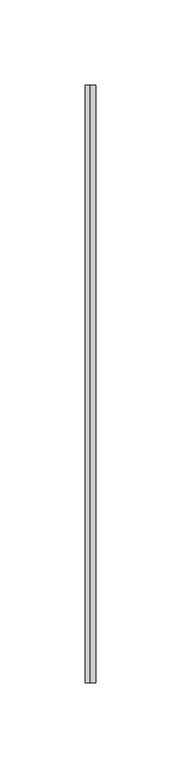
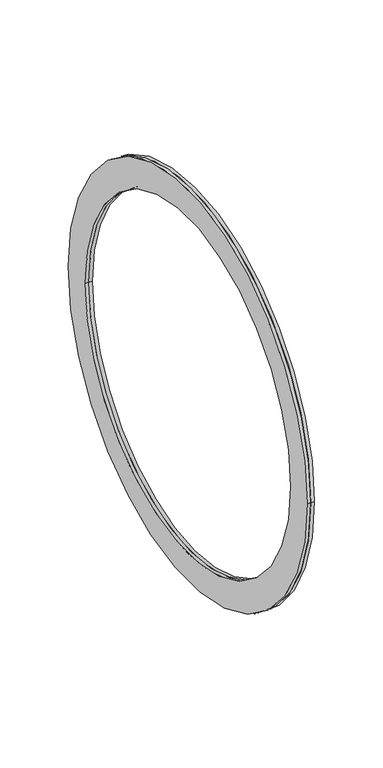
"""IFC4 building model written with IfcOpenShell, lengths in millimetres: duct fitting geometry, BL_ФланецВоздуховдов-Двойной_Круглый : BL_ФланецВоздуховдов-Двойной_Круглый."""

import ifcopenshell
import ifcopenshell.guid

model = None  # the IFC model being written
_history = None  # IfcOwnerHistory: only IFC2X3 demands one
_inside = {}  # id of a spatial element -> (the spatial element, [elements in it])
_under = {}  # id of a project, library or spatial element -> (it, [spatial elements below it])
_declared = {}  # id of a project -> (the project, [libraries it declares])
_typed = {}  # id of a type object -> (the type object, [elements of that type])
_made_of = {}  # id of a material, layer set ... -> (it, [elements and type objects made of it])


def new_model(schema):
    """Start an empty IFC model of exactly this schema.

    Asked for "IFC4X3", IfcOpenShell would pick the latest addendum, in which some entities
    have other attributes; the version numbers below select the first issue.
    IFC2X3 requires an IfcOwnerHistory on every rooted entity: one is made here for all.
    """
    global model, _history
    if schema == "IFC4X3":
        model = ifcopenshell.file(schema_version=(4, 3, 0, 0))
    else:
        model = ifcopenshell.file(schema=schema)
    _inside.clear()
    _under.clear()
    _declared.clear()
    _typed.clear()
    _made_of.clear()
    _history = None
    if model.schema == "IFC2X3":
        org = make("IfcOrganization", Name="unknown")
        user = make(
            "IfcPersonAndOrganization",
            ThePerson=make("IfcPerson", FamilyName="unknown"),
            TheOrganization=org,
        )
        app = make(
            "IfcApplication",
            ApplicationDeveloper=org,
            Version="unknown",
            ApplicationFullName="unknown",
            ApplicationIdentifier="unknown",
        )
        _history = make(
            "IfcOwnerHistory",
            OwningUser=user,
            OwningApplication=app,
            ChangeAction="ADDED",
            CreationDate=0,
        )
    return model


def make(cls, **values):
    """One entity of the class cls with the attributes given. An attribute that is None is left unset."""
    return model.create_entity(
        cls, **{name: value for name, value in values.items() if value is not None}
    )


def rooted(cls, **values):
    """An entity with a GlobalId (a new one), such as an element, a storey or a relation."""
    return make(cls, GlobalId=ifcopenshell.guid.new(), OwnerHistory=_history, **values)


def si_unit(unit_type, name, prefix=None):
    """IfcSIUnit, for example si_unit("LENGTHUNIT", "METRE", prefix="MILLI")."""
    return make("IfcSIUnit", UnitType=unit_type, Prefix=prefix, Name=name)


def assignment(units):
    """IfcUnitAssignment: the units of a project."""
    return None if units is None else make("IfcUnitAssignment", Units=units)


def point(xyz):
    """IfcCartesianPoint."""
    return None if xyz is None else make("IfcCartesianPoint", Coordinates=xyz)


def direction(xyz):
    """IfcDirection."""
    return None if xyz is None else make("IfcDirection", DirectionRatios=xyz)


def frame(location, z_axis=None, x_axis=None):
    """IfcAxis2Placement3D, a coordinate frame: its origin and axes. An axis left out is left unset."""
    return make(
        "IfcAxis2Placement3D",
        Location=point(location),
        Axis=direction(z_axis),
        RefDirection=direction(x_axis),
    )


def frame_2d(location, x_axis=None):
    """IfcAxis2Placement2D, a coordinate frame in the plane: its origin and x axis."""
    return make(
        "IfcAxis2Placement2D", Location=point(location), RefDirection=direction(x_axis)
    )


def origin():
    """The frame at (0, 0, 0) with its axes left unset."""
    return frame((0.0, 0.0, 0.0))


def place(relative_to, where):
    """IfcLocalPlacement: puts the frame where relative to a parent placement (None: the world)."""
    return make(
        "IfcLocalPlacement", PlacementRelTo=relative_to, RelativePlacement=where
    )


def context(
    kind, dimensions, precision=None, world=None, true_north=None, identifier=None
):
    """IfcGeometricRepresentationContext, for example the 3D "Model" context."""
    return make(
        "IfcGeometricRepresentationContext",
        ContextIdentifier=identifier,
        ContextType=kind,
        CoordinateSpaceDimension=dimensions,
        Precision=precision,
        WorldCoordinateSystem=world,
        TrueNorth=true_north,
    )


def project(units=None, contexts=None):
    """IfcProject with its units and contexts."""
    return rooted(
        "IfcProject",
        Name="project",
        RepresentationContexts=contexts,
        UnitsInContext=assignment(units),
    )


def spatial(cls, under=None, at=None, **own):
    """A site, building, storey or space (cls), placed at a placement, below another one or the project."""
    s = rooted(cls, ObjectPlacement=at, **own)
    if under is not None:
        _under.setdefault(under.id(), (under, []))[1].append(s)
    return s


def circle_curve(where, radius):
    """IfcCircle in the frame where."""
    return make("IfcCircle", Position=where, Radius=radius)


def trimmed(basis, trim1, trim2, sense, master):
    """IfcTrimmedCurve: the piece of a basis curve between two trims."""
    return make(
        "IfcTrimmedCurve",
        BasisCurve=basis,
        Trim1=trim1,
        Trim2=trim2,
        SenseAgreement=sense,
        MasterRepresentation=master,
    )


def segment(curve, same_sense, transition):
    """IfcCompositeCurveSegment."""
    return make(
        "IfcCompositeCurveSegment",
        Transition=transition,
        SameSense=same_sense,
        ParentCurve=curve,
    )


def composite_curve(segments, self_intersect=None):
    """IfcCompositeCurve: segments joined end to end."""
    return make("IfcCompositeCurve", Segments=segments, SelfIntersect=self_intersect)


def outline(outer, holes=None, kind="AREA"):
    """IfcArbitraryClosedProfileDef: a profile drawn as a closed curve; with holes, ...WithVoids."""
    if holes is None:
        return make("IfcArbitraryClosedProfileDef", ProfileType=kind, OuterCurve=outer)
    return make(
        "IfcArbitraryProfileDefWithVoids",
        ProfileType=kind,
        OuterCurve=outer,
        InnerCurves=holes,
    )


def extrude(swept, where, along, depth):
    """IfcExtrudedAreaSolid: the profile swept, set in the frame where, extruded along a direction by depth."""
    return make(
        "IfcExtrudedAreaSolid",
        SweptArea=swept,
        Position=where,
        ExtrudedDirection=direction(along),
        Depth=depth,
    )


def shape(context_of_items, identifier, shape_type, items):
    """IfcShapeRepresentation: the items that make up one representation, for example the "Body"."""
    return make(
        "IfcShapeRepresentation",
        ContextOfItems=context_of_items,
        RepresentationIdentifier=identifier,
        RepresentationType=shape_type,
        Items=items,
    )


def source(mapping_origin, context_of_items, identifier, shape_type, items):
    """IfcRepresentationMap: a shape defined once, which mapped items show again and again."""
    return make(
        "IfcRepresentationMap",
        MappingOrigin=mapping_origin,
        MappedRepresentation=shape(context_of_items, identifier, shape_type, items),
    )


def transform(
    local_origin,
    x_axis=None,
    y_axis=None,
    z_axis=None,
    scale=None,
    scale2=None,
    scale3=None,
    uniform=True,
):
    """IfcCartesianTransformationOperator3D, or its non-uniform kind. x_axis, y_axis, z_axis: its Axis1, 2, 3."""
    if uniform:
        return make(
            "IfcCartesianTransformationOperator3D",
            Axis1=direction(x_axis),
            Axis2=direction(y_axis),
            LocalOrigin=point(local_origin),
            Scale=scale,
            Axis3=direction(z_axis),
        )
    return make(
        "IfcCartesianTransformationOperator3DnonUniform",
        Axis1=direction(x_axis),
        Axis2=direction(y_axis),
        LocalOrigin=point(local_origin),
        Scale=scale,
        Axis3=direction(z_axis),
        Scale2=scale2,
        Scale3=scale3,
    )


def mapped(mapping_source, mapping_target):
    """IfcMappedItem: shows the shape of a source again, moved by a transform."""
    return make(
        "IfcMappedItem", MappingSource=mapping_source, MappingTarget=mapping_target
    )


def made_of(thing, what):
    """Note that an element or type object is made of a material, layer set ...; save() writes the relation."""
    if what is not None:
        _made_of.setdefault(what.id(), (what, []))[1].append(thing)
    return thing


def element(
    cls,
    number,
    at=None,
    inside=None,
    cuts=None,
    type_object=None,
    material=None,
    context=None,
    identifier="Body",
    shape_type=None,
    held_by="IfcProductDefinitionShape",
    body=None,
    shapes=None,
    **own,
):
    """One element of the class cls, such as IfcWall. Its Tag is "e" and its number.

    at: its placement. inside: the storey or other place that contains it. cuts: it is an
    opening in that element (IfcRelVoidsElement). A single representation is given by context,
    identifier, shape_type and body (its items); several are given by shapes. held_by: the class
    of the entity that holds the representations. save() writes the other relations.
    """
    e = rooted(cls, Tag="e%d" % number, ObjectPlacement=at, **own)
    if body is not None:
        shapes = [shape(context, identifier, shape_type, body)]
    if shapes is not None:
        e.Representation = make(held_by, Representations=shapes)
    if inside is not None:
        _inside.setdefault(inside.id(), (inside, []))[1].append(e)
    if cuts is not None:
        rooted(
            "IfcRelVoidsElement", RelatingBuildingElement=cuts, RelatedOpeningElement=e
        )
    if type_object is not None:
        _typed.setdefault(type_object.id(), (type_object, []))[1].append(e)
    return made_of(e, material)


def aggregate(whole, parts):
    """IfcRelAggregates: a whole, such as a stair, and the parts it consists of."""
    return rooted("IfcRelAggregates", RelatingObject=whole, RelatedObjects=parts)


def save(model, path):
    """Write the relations noted so far, then the file.

    IfcRelAggregates (storeys below a building ...), IfcRelContainedInSpatialStructure (elements
    in a storey), IfcRelDefinesByType, IfcRelAssociatesMaterial and IfcRelDeclares: one each for
    every whole, place, type object, material and project.
    """
    for whole, parts in _under.values():
        aggregate(whole, parts)
    for where, things in _inside.values():
        rooted(
            "IfcRelContainedInSpatialStructure",
            RelatedElements=things,
            RelatingStructure=where,
        )
    for kind, things in _typed.values():
        rooted("IfcRelDefinesByType", RelatedObjects=things, RelatingType=kind)
    for what, things in _made_of.values():
        rooted("IfcRelAssociatesMaterial", RelatedObjects=things, RelatingMaterial=what)
    for by, libraries in _declared.values():
        rooted("IfcRelDeclares", RelatingContext=by, RelatedDefinitions=libraries)
    model.write(path)


def duct_fitting_ef46aa1c(model_context):
    return source(origin(), model_context, "Body", "SweptSolid", [
        extrude(outline(composite_curve([segment(trimmed(circle_curve(frame_2d((-45.6742229, 0.0)), 175.0), [point((-220.6742229, 0.0))], [point((129.3257771, 0.0))], False, "CARTESIAN"), True, "CONTINUOUS"), segment(trimmed(circle_curve(frame_2d((-45.6742229, 0.0)), 175.0), [point((129.3257771, 0.0))], [point((-220.6742229, 0.0))], False, "CARTESIAN"), True, "CONTINUOUS")], self_intersect=False), holes=[composite_curve([segment(trimmed(circle_curve(frame_2d((-45.6742229, 0.0)), 150.0), [point((-195.6742229, 0.0))], [point((104.3257771, 0.0))], True, "CARTESIAN"), True, "CONTINUOUS"), segment(trimmed(circle_curve(frame_2d((-45.6742229, 0.0)), 150.0), [point((104.3257771, 0.0))], [point((-195.6742229, 0.0))], True, "CARTESIAN"), True, "CONTINUOUS")], self_intersect=False)]), frame((0.0, 0.0, 0.0), z_axis=(1.0, 0.0, 0.0), x_axis=(0.0, 1.0, 0.0)), (0.0, 0.0, 1.0), 3.0),
        extrude(outline(composite_curve([segment(trimmed(circle_curve(frame_2d((-45.6742229, 0.0)), 175.0), [point((-220.6742229, 0.0))], [point((129.3257771, 0.0))], False, "CARTESIAN"), True, "CONTINUOUS"), segment(trimmed(circle_curve(frame_2d((-45.6742229, 0.0)), 175.0), [point((129.3257771, 0.0))], [point((-220.6742229, 0.0))], False, "CARTESIAN"), True, "CONTINUOUS")], self_intersect=False), holes=[composite_curve([segment(trimmed(circle_curve(frame_2d((-45.6742229, 0.0)), 150.0), [point((-195.6742229, 0.0))], [point((104.3257771, 0.0))], True, "CARTESIAN"), True, "CONTINUOUS"), segment(trimmed(circle_curve(frame_2d((-45.6742229, 0.0)), 150.0), [point((104.3257771, 0.0))], [point((-195.6742229, 0.0))], True, "CARTESIAN"), True, "CONTINUOUS")], self_intersect=False)]), frame((-3.0, 0.0, 0.0), z_axis=(1.0, 0.0, 0.0), x_axis=(0.0, 1.0, 0.0)), (0.0, 0.0, 1.0), 3.0),
    ])


if __name__ == "__main__":
    model = new_model("IFC4")
    model_context = context("Model", 3, world=origin())
    ifc_project = project(units=[si_unit("LENGTHUNIT", "METRE", prefix="MILLI")], contexts=[model_context])
    site = spatial("IfcSite", under=ifc_project)
    building = spatial("IfcBuilding", under=site)
    placement = place(None, origin())
    duct_fitting_shape = duct_fitting_ef46aa1c(model_context)
    element("IfcDuctFitting", 1, ObjectType="BL_ФланецВоздуховдов-Двойной_Круглый : BL_ФланецВоздуховдов-Двойной_Круглый", at=placement, inside=building, context=model_context, shape_type="MappedRepresentation", body=[
        mapped(duct_fitting_shape, transform((0.0, 0.0, 0.0), x_axis=(1.0, 0.0, 0.0), y_axis=(0.0, 1.0, 0.0), z_axis=(0.0, 0.0, 1.0))),
    ])
    save(model, "model.ifc")
